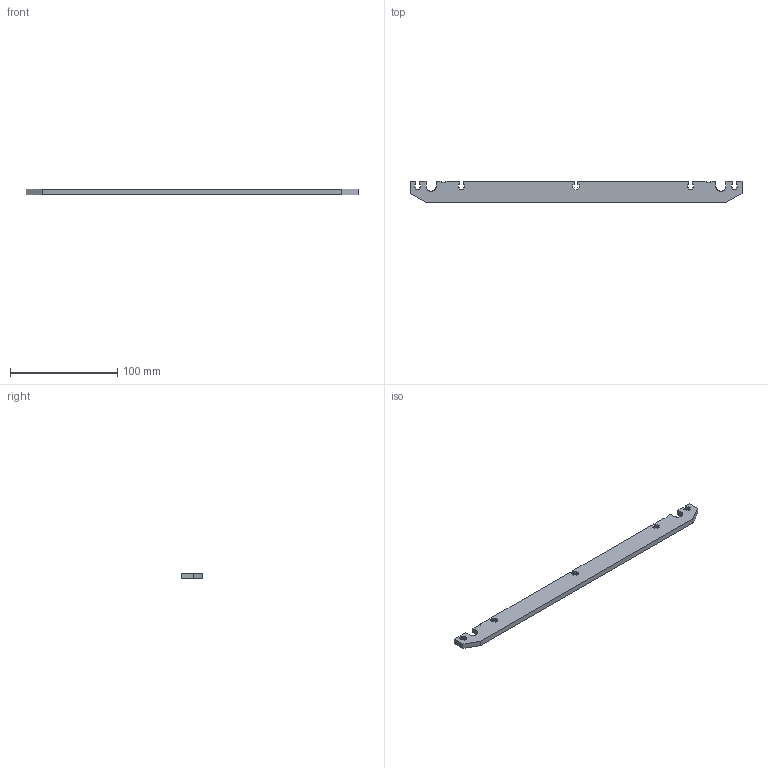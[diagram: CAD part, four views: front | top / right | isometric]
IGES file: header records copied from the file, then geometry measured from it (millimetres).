
Start section: SolidWorks IGES file using analytic representation for surfaces
Global section: file name: C:\Documents and Settings\Administrator\Desktop\coreXY\CoreXY EVT1\20110623\corexy1_yshaftretainer.IGS; native system: SolidWorks 2009; preprocessor: SolidWorks 2009; author: Administrator; date: 120423.190349; units: millimetre
Bounding box: 310.23 x 20 x 5 mm (x, y, z)
Surface area: 15406.1 mm2 (no closed solid volume)
Topology: 0 solids, 0 shells, 98 faces, 720 edges, 720 vertices
Faces by surface type: bspline 82, revolution 16
